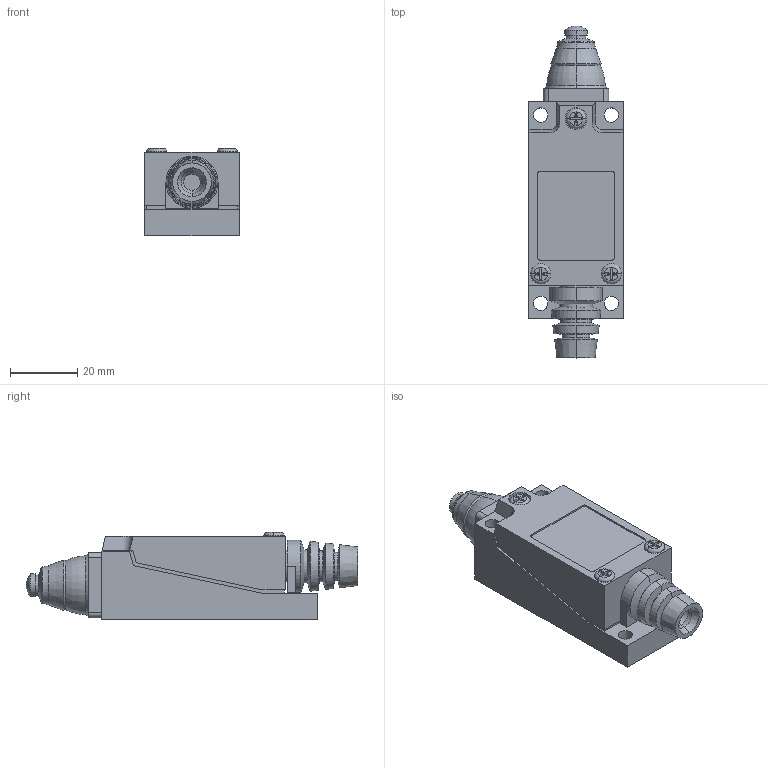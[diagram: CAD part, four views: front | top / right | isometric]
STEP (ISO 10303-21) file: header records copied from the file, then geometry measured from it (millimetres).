
FILE_DESCRIPTION (( 'STEP AP203' ), '1' );
FILE_NAME ('FM8111.STEP', '2018-06-20T16:24:12', ( '' ), ( '' ), 'SwSTEP 2.0', 'SolidWorks 2012', '' );
FILE_SCHEMA (( 'CONFIG_CONTROL_DESIGN' ));
Length unit declared in the file: millimetre
Products named in the file (1): FM8111
Bounding box: 28 x 98.75 x 25.9 mm (x, y, z)
Volume: 44633.2 mm3; surface area: 11472.8 mm2
Topology: 1 solids, 1 shells, 175 faces, 434 edges, 274 vertices
Faces by surface type: plane 88, cylinder 40, cone 30, torus 12, bspline 4, sphere 1
Entity records: 5486 total; most frequent: CARTESIAN_POINT 1175, DIRECTION 897, ORIENTED_EDGE 862, EDGE_CURVE 431, AXIS2_PLACEMENT_3D 304, VECTOR 289, LINE 289, VERTEX_POINT 272
